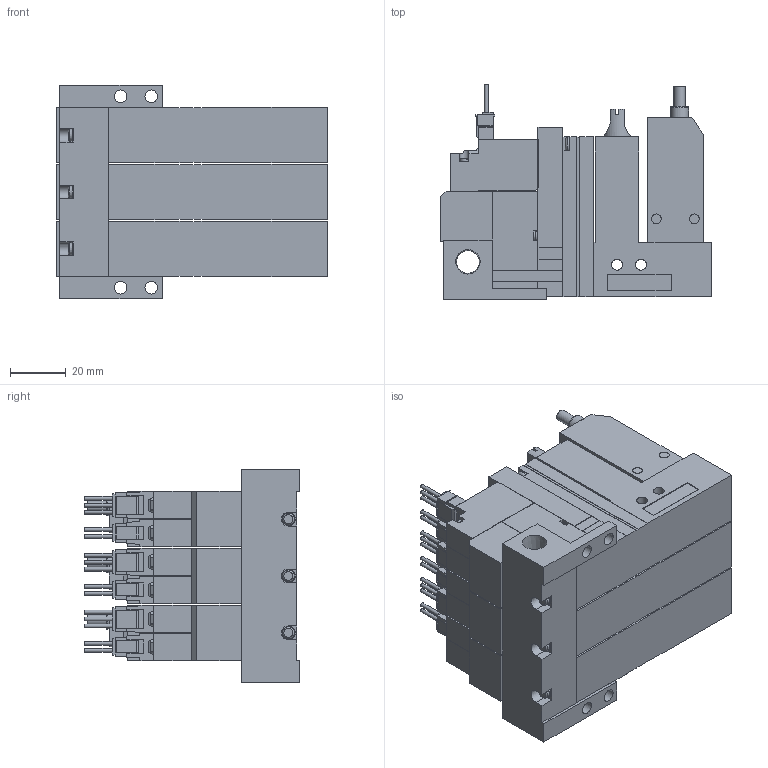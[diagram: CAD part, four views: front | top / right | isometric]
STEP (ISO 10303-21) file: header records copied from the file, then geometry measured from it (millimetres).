
FILE_DESCRIPTION(('STEP AP203'),'1');
FILE_NAME('ABS_ABPLC5WLR303.stp','2025-02-18T23:13:41',(' '),(' '),'Spatial InterOp 3D',' ',' ');
FILE_SCHEMA(('CONFIG_CONTROL_DESIGN'));
Length unit declared in the file: millimetre
Products named in the file (5): BMC22M※※※※ABS_ABPLC5WLR303; Solenoid valve W; Pressure sensor ABSLC; Unit LC; Base MR30R
Assembly tree (10 placements, depth 2):
  BMC22M※※※※ABS_ABPLC5WLR303
    Solenoid valve W  x3
    Pressure sensor ABSLC  x3
    Unit LC  x3
    Base MR30R
Bounding box: 97.6 x 77.45 x 77 mm (x, y, z)
Volume: 310535 mm3; surface area: 82309.3 mm2
Topology: 10 solids, 10 shells, 1197 faces, 3209 edges, 2110 vertices
Faces by surface type: plane 1016, cylinder 140, cone 23, torus 18
Full cylindrical faces by diameter (mm): 1.4 x15, 2.5 x3, 3 x12, 3.5 x18, 3.6 x3, 4 x9, 4.134 x3, 4.5 x4, 5.2 x3, 6 x3, 6.5 x3, 6.6 x3, 8.279 x1
Entity records: 13781 total; most frequent: CARTESIAN_POINT 2598, ORIENTED_EDGE 2198, DIRECTION 2180, EDGE_CURVE 1099, LINE 916, VECTOR 916, VERTEX_POINT 759, AXIS2_PLACEMENT_3D 632
